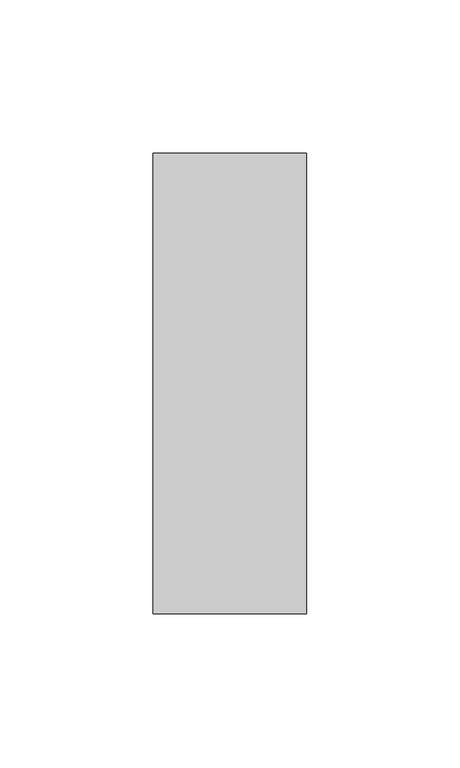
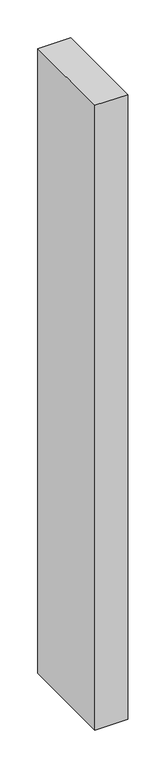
"""IFC4 building model written with IfcOpenShell, lengths in millimetres: member geometry, Прямоугольный импост : 50 x 150 мм."""

import ifcopenshell
import ifcopenshell.guid

model = None  # the IFC model being written
_history = None  # IfcOwnerHistory: only IFC2X3 demands one
_inside = {}  # id of a spatial element -> (the spatial element, [elements in it])
_under = {}  # id of a project, library or spatial element -> (it, [spatial elements below it])
_declared = {}  # id of a project -> (the project, [libraries it declares])
_typed = {}  # id of a type object -> (the type object, [elements of that type])
_made_of = {}  # id of a material, layer set ... -> (it, [elements and type objects made of it])


def new_model(schema):
    """Start an empty IFC model of exactly this schema.

    Asked for "IFC4X3", IfcOpenShell would pick the latest addendum, in which some entities
    have other attributes; the version numbers below select the first issue.
    IFC2X3 requires an IfcOwnerHistory on every rooted entity: one is made here for all.
    """
    global model, _history
    if schema == "IFC4X3":
        model = ifcopenshell.file(schema_version=(4, 3, 0, 0))
    else:
        model = ifcopenshell.file(schema=schema)
    _inside.clear()
    _under.clear()
    _declared.clear()
    _typed.clear()
    _made_of.clear()
    _history = None
    if model.schema == "IFC2X3":
        org = make("IfcOrganization", Name="unknown")
        user = make(
            "IfcPersonAndOrganization",
            ThePerson=make("IfcPerson", FamilyName="unknown"),
            TheOrganization=org,
        )
        app = make(
            "IfcApplication",
            ApplicationDeveloper=org,
            Version="unknown",
            ApplicationFullName="unknown",
            ApplicationIdentifier="unknown",
        )
        _history = make(
            "IfcOwnerHistory",
            OwningUser=user,
            OwningApplication=app,
            ChangeAction="ADDED",
            CreationDate=0,
        )
    return model


def make(cls, **values):
    """One entity of the class cls with the attributes given. An attribute that is None is left unset."""
    return model.create_entity(
        cls, **{name: value for name, value in values.items() if value is not None}
    )


def rooted(cls, **values):
    """An entity with a GlobalId (a new one), such as an element, a storey or a relation."""
    return make(cls, GlobalId=ifcopenshell.guid.new(), OwnerHistory=_history, **values)


def si_unit(unit_type, name, prefix=None):
    """IfcSIUnit, for example si_unit("LENGTHUNIT", "METRE", prefix="MILLI")."""
    return make("IfcSIUnit", UnitType=unit_type, Prefix=prefix, Name=name)


def assignment(units):
    """IfcUnitAssignment: the units of a project."""
    return None if units is None else make("IfcUnitAssignment", Units=units)


def point(xyz):
    """IfcCartesianPoint."""
    return None if xyz is None else make("IfcCartesianPoint", Coordinates=xyz)


def direction(xyz):
    """IfcDirection."""
    return None if xyz is None else make("IfcDirection", DirectionRatios=xyz)


def frame(location, z_axis=None, x_axis=None):
    """IfcAxis2Placement3D, a coordinate frame: its origin and axes. An axis left out is left unset."""
    return make(
        "IfcAxis2Placement3D",
        Location=point(location),
        Axis=direction(z_axis),
        RefDirection=direction(x_axis),
    )


def origin():
    """The frame at (0, 0, 0) with its axes left unset."""
    return frame((0.0, 0.0, 0.0))


def place(relative_to, where):
    """IfcLocalPlacement: puts the frame where relative to a parent placement (None: the world)."""
    return make(
        "IfcLocalPlacement", PlacementRelTo=relative_to, RelativePlacement=where
    )


def context(
    kind, dimensions, precision=None, world=None, true_north=None, identifier=None
):
    """IfcGeometricRepresentationContext, for example the 3D "Model" context."""
    return make(
        "IfcGeometricRepresentationContext",
        ContextIdentifier=identifier,
        ContextType=kind,
        CoordinateSpaceDimension=dimensions,
        Precision=precision,
        WorldCoordinateSystem=world,
        TrueNorth=true_north,
    )


def project(units=None, contexts=None):
    """IfcProject with its units and contexts."""
    return rooted(
        "IfcProject",
        Name="project",
        RepresentationContexts=contexts,
        UnitsInContext=assignment(units),
    )


def spatial(cls, under=None, at=None, **own):
    """A site, building, storey or space (cls), placed at a placement, below another one or the project."""
    s = rooted(cls, ObjectPlacement=at, **own)
    if under is not None:
        _under.setdefault(under.id(), (under, []))[1].append(s)
    return s


def polyline(points):
    """IfcPolyline through the points."""
    return make("IfcPolyline", Points=[point(p) for p in points])


def outline(outer, holes=None, kind="AREA"):
    """IfcArbitraryClosedProfileDef: a profile drawn as a closed curve; with holes, ...WithVoids."""
    if holes is None:
        return make("IfcArbitraryClosedProfileDef", ProfileType=kind, OuterCurve=outer)
    return make(
        "IfcArbitraryProfileDefWithVoids",
        ProfileType=kind,
        OuterCurve=outer,
        InnerCurves=holes,
    )


def extrude(swept, where, along, depth):
    """IfcExtrudedAreaSolid: the profile swept, set in the frame where, extruded along a direction by depth."""
    return make(
        "IfcExtrudedAreaSolid",
        SweptArea=swept,
        Position=where,
        ExtrudedDirection=direction(along),
        Depth=depth,
    )


def shape(context_of_items, identifier, shape_type, items):
    """IfcShapeRepresentation: the items that make up one representation, for example the "Body"."""
    return make(
        "IfcShapeRepresentation",
        ContextOfItems=context_of_items,
        RepresentationIdentifier=identifier,
        RepresentationType=shape_type,
        Items=items,
    )


def source(mapping_origin, context_of_items, identifier, shape_type, items):
    """IfcRepresentationMap: a shape defined once, which mapped items show again and again."""
    return make(
        "IfcRepresentationMap",
        MappingOrigin=mapping_origin,
        MappedRepresentation=shape(context_of_items, identifier, shape_type, items),
    )


def transform(
    local_origin,
    x_axis=None,
    y_axis=None,
    z_axis=None,
    scale=None,
    scale2=None,
    scale3=None,
    uniform=True,
):
    """IfcCartesianTransformationOperator3D, or its non-uniform kind. x_axis, y_axis, z_axis: its Axis1, 2, 3."""
    if uniform:
        return make(
            "IfcCartesianTransformationOperator3D",
            Axis1=direction(x_axis),
            Axis2=direction(y_axis),
            LocalOrigin=point(local_origin),
            Scale=scale,
            Axis3=direction(z_axis),
        )
    return make(
        "IfcCartesianTransformationOperator3DnonUniform",
        Axis1=direction(x_axis),
        Axis2=direction(y_axis),
        LocalOrigin=point(local_origin),
        Scale=scale,
        Axis3=direction(z_axis),
        Scale2=scale2,
        Scale3=scale3,
    )


def mapped(mapping_source, mapping_target):
    """IfcMappedItem: shows the shape of a source again, moved by a transform."""
    return make(
        "IfcMappedItem", MappingSource=mapping_source, MappingTarget=mapping_target
    )


def made_of(thing, what):
    """Note that an element or type object is made of a material, layer set ...; save() writes the relation."""
    if what is not None:
        _made_of.setdefault(what.id(), (what, []))[1].append(thing)
    return thing


def element(
    cls,
    number,
    at=None,
    inside=None,
    cuts=None,
    type_object=None,
    material=None,
    context=None,
    identifier="Body",
    shape_type=None,
    held_by="IfcProductDefinitionShape",
    body=None,
    shapes=None,
    **own,
):
    """One element of the class cls, such as IfcWall. Its Tag is "e" and its number.

    at: its placement. inside: the storey or other place that contains it. cuts: it is an
    opening in that element (IfcRelVoidsElement). A single representation is given by context,
    identifier, shape_type and body (its items); several are given by shapes. held_by: the class
    of the entity that holds the representations. save() writes the other relations.
    """
    e = rooted(cls, Tag="e%d" % number, ObjectPlacement=at, **own)
    if body is not None:
        shapes = [shape(context, identifier, shape_type, body)]
    if shapes is not None:
        e.Representation = make(held_by, Representations=shapes)
    if inside is not None:
        _inside.setdefault(inside.id(), (inside, []))[1].append(e)
    if cuts is not None:
        rooted(
            "IfcRelVoidsElement", RelatingBuildingElement=cuts, RelatedOpeningElement=e
        )
    if type_object is not None:
        _typed.setdefault(type_object.id(), (type_object, []))[1].append(e)
    return made_of(e, material)


def aggregate(whole, parts):
    """IfcRelAggregates: a whole, such as a stair, and the parts it consists of."""
    return rooted("IfcRelAggregates", RelatingObject=whole, RelatedObjects=parts)


def save(model, path):
    """Write the relations noted so far, then the file.

    IfcRelAggregates (storeys below a building ...), IfcRelContainedInSpatialStructure (elements
    in a storey), IfcRelDefinesByType, IfcRelAssociatesMaterial and IfcRelDeclares: one each for
    every whole, place, type object, material and project.
    """
    for whole, parts in _under.values():
        aggregate(whole, parts)
    for where, things in _inside.values():
        rooted(
            "IfcRelContainedInSpatialStructure",
            RelatedElements=things,
            RelatingStructure=where,
        )
    for kind, things in _typed.values():
        rooted("IfcRelDefinesByType", RelatedObjects=things, RelatingType=kind)
    for what, things in _made_of.values():
        rooted("IfcRelAssociatesMaterial", RelatedObjects=things, RelatingMaterial=what)
    for by, libraries in _declared.values():
        rooted("IfcRelDeclares", RelatingContext=by, RelatedDefinitions=libraries)
    model.write(path)


def member_631499a8(model_context):
    return source(origin(), model_context, "Body", "SweptSolid", [
        extrude(outline(polyline([(25.0, 75.0), (25.0, -75.0), (-25.0, -75.0), (-25.0, 75.0), (25.0, 75.0)])), frame((0.0, 0.0, -1004.0040368), z_axis=(0.0, 0.0, 1.0), x_axis=(1.0, 0.0, 0.0)), (0.0, 0.0, 1.0), 1004.0040368),
    ])


if __name__ == "__main__":
    model = new_model("IFC4")
    model_context = context("Model", 3, world=origin())
    ifc_project = project(units=[si_unit("LENGTHUNIT", "METRE", prefix="MILLI")], contexts=[model_context])
    site = spatial("IfcSite", under=ifc_project)
    building = spatial("IfcBuilding", under=site)
    placement = place(None, origin())
    member_shape = member_631499a8(model_context)
    element("IfcMember", 1, ObjectType="Прямоугольный импост : 50 x 150 мм", at=placement, inside=building, context=model_context, shape_type="MappedRepresentation", body=[
        mapped(member_shape, transform((0.0, 0.0, 0.0), x_axis=(1.0, 0.0, 0.0), y_axis=(0.0, 1.0, 0.0), z_axis=(0.0, 0.0, 1.0))),
    ])
    save(model, "model.ifc")
